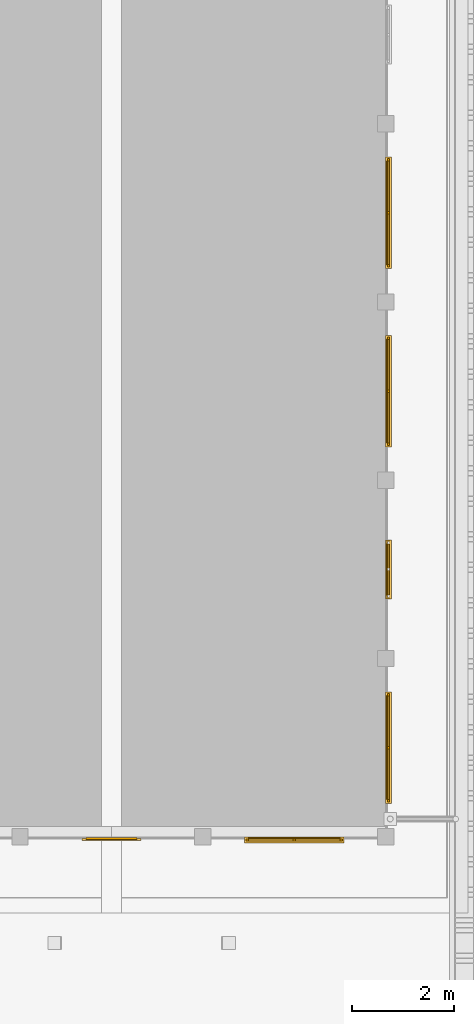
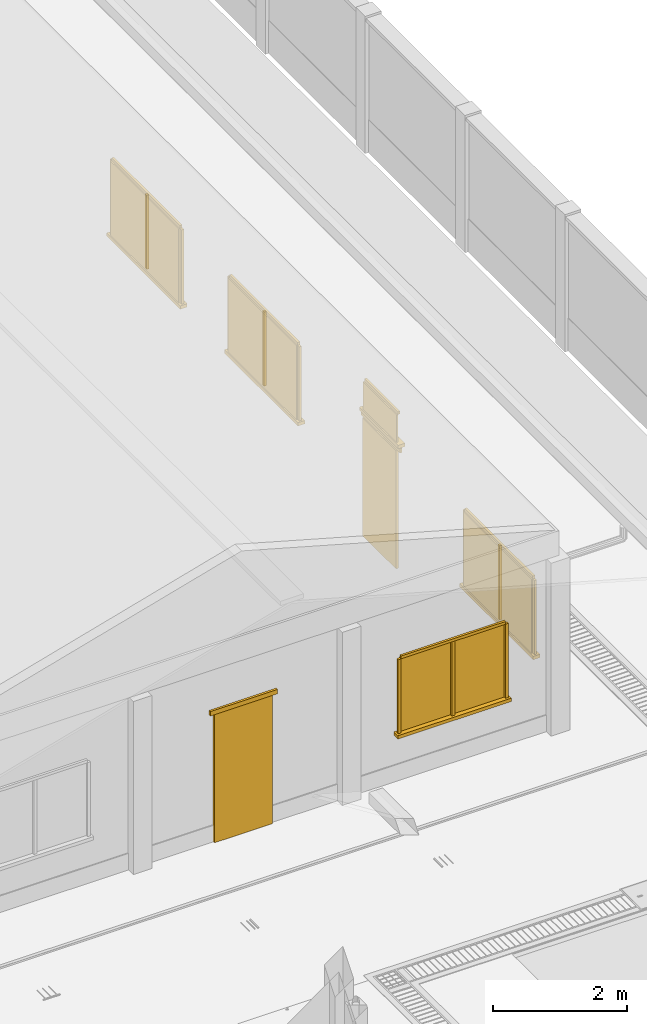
# One storey, part 64 of 151: 27 windows, 4 doors.
"""IFC2X3 building model written with IfcOpenShell, lengths in metres."""

from ifc_helpers import new_model, si_unit, origin, origin_with_axes, place, context, subcontext, project, spatial, faceted_brep, element, save


model = new_model("IFC2X3")

# Units and contexts
model_context = context("Model", 3, precision=1e-05, world=origin_with_axes())
body_context = subcontext(model_context, "Body", "Model", "MODEL_VIEW")
ifc_project = project(units=[si_unit("LENGTHUNIT", "METRE"), si_unit("AREAUNIT", "SQUARE_METRE"), si_unit("VOLUMEUNIT", "CUBIC_METRE"), si_unit("PLANEANGLEUNIT", "RADIAN")], contexts=[model_context])

# Site, building, storey
site_placement = place(None, origin_with_axes())
site = spatial("IfcSite", under=ifc_project, at=site_placement, Name="Predio Los Mangos - Morales, San Martín", CompositionType="ELEMENT")
building_placement = place(site_placement, origin())
building = spatial("IfcBuilding", under=site, at=building_placement, Name="Hogar de Refugio Temporal", CompositionType="ELEMENT")
storey_placement = place(building_placement, origin())
storey = spatial("IfcBuildingStorey", under=building, at=storey_placement, Name="NIVEL 1 (NPT +0.00)", CompositionType="ELEMENT", Elevation=0.0)

# Doors
door_1_placement = place(storey_placement, origin())
element("IfcDoor", 1, at=door_1_placement, inside=storey, Name="E-07_pp", ObjectType="Puerta", context=body_context, shape_type="Brep", body=[
    faceted_brep([(60.6, 92.65, 0.15), (60.6, 92.69, 0.15), (61.6, 92.69, 0.15), (61.6, 92.65, 0.15), (60.6, 92.65, 2.5), (61.6, 92.65, 2.5), (61.6, 92.69, 2.5), (60.6, 92.69, 2.5)], [[[0, 1, 2, 3]], [[4, 5, 6, 7]], [[0, 3, 5, 4]], [[3, 2, 6, 5]], [[2, 1, 7, 6]], [[1, 0, 4, 7]]]),
])
door_2_placement = place(storey_placement, origin())
element("IfcDoor", 2, at=door_2_placement, inside=storey, Name="E-07_pp_marco", ObjectType="Puerta", context=body_context, shape_type="Brep", body=[
    faceted_brep([(60.52, 92.63, 2.5), (60.52, 92.67, 2.5), (61.68, 92.67, 2.5), (61.68, 92.63, 2.5), (60.52, 92.63, 2.58), (61.68, 92.63, 2.58), (61.68, 92.67, 2.58), (60.52, 92.67, 2.58)], [[[0, 1, 2, 3]], [[4, 5, 6, 7]], [[0, 3, 5, 4]], [[3, 2, 6, 5]], [[2, 1, 7, 6]], [[1, 0, 4, 7]]]),
])

# Windows
window_1_placement = place(storey_placement, origin())
element("IfcWindow", 3, at=window_1_placement, inside=storey, Name="E-07_vg2_vid", ObjectType="Ventana", context=body_context, shape_type="Brep", body=[
    faceted_brep([(63.8, 92.66, 1.05), (63.8, 92.68, 1.05), (65.6, 92.68, 1.05), (65.6, 92.66, 1.05), (63.8, 92.66, 2.4), (65.6, 92.66, 2.4), (65.6, 92.68, 2.4), (63.8, 92.68, 2.4)], [[[0, 1, 2, 3]], [[4, 5, 6, 7]], [[0, 3, 5, 4]], [[3, 2, 6, 5]], [[2, 1, 7, 6]], [[1, 0, 4, 7]]]),
])
window_2_placement = place(storey_placement, origin())
element("IfcWindow", 4, at=window_2_placement, inside=storey, Name="E-07_vg2_m", ObjectType="Ventana", context=body_context, shape_type="Brep", body=[
    faceted_brep([(63.75, 92.62, 1.05), (63.75, 92.66, 1.05), (63.8, 92.66, 1.05), (63.8, 92.62, 1.05), (63.75, 92.62, 2.4), (63.8, 92.62, 2.4), (63.8, 92.66, 2.4), (63.75, 92.66, 2.4)], [[[0, 1, 2, 3]], [[4, 5, 6, 7]], [[0, 3, 5, 4]], [[3, 2, 6, 5]], [[2, 1, 7, 6]], [[1, 0, 4, 7]]]),
])
window_3_placement = place(storey_placement, origin())
element("IfcWindow", 5, at=window_3_placement, inside=storey, Name="E-07_vg2_m", ObjectType="Ventana", context=body_context, shape_type="Brep", body=[
    faceted_brep([(65.6, 92.62, 1.05), (65.6, 92.66, 1.05), (65.65, 92.66, 1.05), (65.65, 92.62, 1.05), (65.6, 92.62, 2.4), (65.65, 92.62, 2.4), (65.65, 92.66, 2.4), (65.6, 92.66, 2.4)], [[[0, 1, 2, 3]], [[4, 5, 6, 7]], [[0, 3, 5, 4]], [[3, 2, 6, 5]], [[2, 1, 7, 6]], [[1, 0, 4, 7]]]),
])
window_4_placement = place(storey_placement, origin())
element("IfcWindow", 6, at=window_4_placement, inside=storey, Name="E-07_vg2_m", ObjectType="Ventana", context=body_context, shape_type="Brep", body=[
    faceted_brep([(63.8, 92.62, 2.4), (63.8, 92.66, 2.4), (65.6, 92.66, 2.4), (65.6, 92.62, 2.4), (63.8, 92.62, 2.45), (65.6, 92.62, 2.45), (65.6, 92.66, 2.45), (63.8, 92.66, 2.45)], [[[0, 1, 2, 3]], [[4, 5, 6, 7]], [[0, 3, 5, 4]], [[3, 2, 6, 5]], [[2, 1, 7, 6]], [[1, 0, 4, 7]]]),
])
window_5_placement = place(storey_placement, origin())
element("IfcWindow", 7, at=window_5_placement, inside=storey, Name="E-07_vg2_m", ObjectType="Ventana", context=body_context, shape_type="Brep", body=[
    faceted_brep([(64.675, 92.62, 1.05), (64.675, 92.66, 1.05), (64.725, 92.66, 1.05), (64.725, 92.62, 1.05), (64.675, 92.62, 2.4), (64.725, 92.62, 2.4), (64.725, 92.66, 2.4), (64.675, 92.66, 2.4)], [[[0, 1, 2, 3]], [[4, 5, 6, 7]], [[0, 3, 5, 4]], [[3, 2, 6, 5]], [[2, 1, 7, 6]], [[1, 0, 4, 7]]]),
])
window_6_placement = place(storey_placement, origin())
element("IfcWindow", 8, at=window_6_placement, inside=storey, Name="E-07_vg2_alf", ObjectType="Ventana", context=body_context, shape_type="Brep", body=[
    faceted_brep([(63.72, 92.7, 0.99), (63.72, 92.58, 0.99), (65.68, 92.58, 0.99), (65.68, 92.7, 0.99), (63.72, 92.7, 1.05), (65.68, 92.7, 1.05), (65.68, 92.58, 1.05), (63.72, 92.58, 1.05)], [[[0, 1, 2, 3]], [[4, 5, 6, 7]], [[0, 3, 5, 4]], [[3, 2, 6, 5]], [[2, 1, 7, 6]], [[1, 0, 4, 7]]]),
])
window_7_placement = place(storey_placement, origin())
element("IfcWindow", 9, at=window_7_placement, inside=storey, Name="E-07_v0_vid", ObjectType="Ventana", context=body_context, shape_type="Brep", body=[
    faceted_brep([(66.52, 93.4371, 1.05), (66.52, 95.4729, 1.05), (66.54, 95.4729, 1.05), (66.54, 93.4371, 1.05), (66.52, 93.4371, 2.4), (66.54, 93.4371, 2.4), (66.54, 95.4729, 2.4), (66.52, 95.4729, 2.4)], [[[0, 1, 2, 3]], [[4, 5, 6, 7]], [[0, 3, 5, 4]], [[3, 2, 6, 5]], [[2, 1, 7, 6]], [[1, 0, 4, 7]]]),
])
window_8_placement = place(storey_placement, origin())
element("IfcWindow", 10, at=window_8_placement, inside=storey, Name="E-07_v0_m", ObjectType="Ventana", context=body_context, shape_type="Brep", body=[
    faceted_brep([(66.54, 93.3871, 1.05), (66.54, 93.4371, 1.05), (66.58, 93.4371, 1.05), (66.58, 93.3871, 1.05), (66.54, 93.3871, 2.4), (66.58, 93.3871, 2.4), (66.58, 93.4371, 2.4), (66.54, 93.4371, 2.4)], [[[0, 1, 2, 3]], [[4, 5, 6, 7]], [[0, 3, 5, 4]], [[3, 2, 6, 5]], [[2, 1, 7, 6]], [[1, 0, 4, 7]]]),
])
window_9_placement = place(storey_placement, origin())
element("IfcWindow", 11, at=window_9_placement, inside=storey, Name="E-07_v0_m", ObjectType="Ventana", context=body_context, shape_type="Brep", body=[
    faceted_brep([(66.54, 95.4729, 1.05), (66.54, 95.5229, 1.05), (66.58, 95.5229, 1.05), (66.58, 95.4729, 1.05), (66.54, 95.4729, 2.4), (66.58, 95.4729, 2.4), (66.58, 95.5229, 2.4), (66.54, 95.5229, 2.4)], [[[0, 1, 2, 3]], [[4, 5, 6, 7]], [[0, 3, 5, 4]], [[3, 2, 6, 5]], [[2, 1, 7, 6]], [[1, 0, 4, 7]]]),
])
window_10_placement = place(storey_placement, origin())
element("IfcWindow", 12, at=window_10_placement, inside=storey, Name="E-07_v0_m", ObjectType="Ventana", context=body_context, shape_type="Brep", body=[
    faceted_brep([(66.54, 93.4371, 2.4), (66.54, 95.4729, 2.4), (66.58, 95.4729, 2.4), (66.58, 93.4371, 2.4), (66.54, 93.4371, 2.45), (66.58, 93.4371, 2.45), (66.58, 95.4729, 2.45), (66.54, 95.4729, 2.45)], [[[0, 1, 2, 3]], [[4, 5, 6, 7]], [[0, 3, 5, 4]], [[3, 2, 6, 5]], [[2, 1, 7, 6]], [[1, 0, 4, 7]]]),
])
window_11_placement = place(storey_placement, origin())
element("IfcWindow", 13, at=window_11_placement, inside=storey, Name="E-07_v0_m", ObjectType="Ventana", context=body_context, shape_type="Brep", body=[
    faceted_brep([(66.54, 94.43, 1.05), (66.54, 94.48, 1.05), (66.58, 94.48, 1.05), (66.58, 94.43, 1.05), (66.54, 94.43, 2.4), (66.58, 94.43, 2.4), (66.58, 94.48, 2.4), (66.54, 94.48, 2.4)], [[[0, 1, 2, 3]], [[4, 5, 6, 7]], [[0, 3, 5, 4]], [[3, 2, 6, 5]], [[2, 1, 7, 6]], [[1, 0, 4, 7]]]),
])
window_12_placement = place(storey_placement, origin())
element("IfcWindow", 14, at=window_12_placement, inside=storey, Name="E-07_v0_alf", ObjectType="Ventana", context=body_context, shape_type="Brep", body=[
    faceted_brep([(66.5, 93.3571, 0.99), (66.5, 95.5529, 0.99), (66.62, 95.5529, 0.99), (66.62, 93.3571, 0.99), (66.5, 93.3571, 1.05), (66.62, 93.3571, 1.05), (66.62, 95.5529, 1.05), (66.5, 95.5529, 1.05)], [[[0, 1, 2, 3]], [[4, 5, 6, 7]], [[0, 3, 5, 4]], [[3, 2, 6, 5]], [[2, 1, 7, 6]], [[1, 0, 4, 7]]]),
])

# Doors
door_3_placement = place(storey_placement, origin())
element("IfcDoor", 15, at=door_3_placement, inside=storey, Name="E-07_p1", ObjectType="Puerta", context=body_context, shape_type="Brep", body=[
    faceted_brep([(66.51, 97.465, 0.15), (66.51, 98.465, 0.15), (66.55, 98.465, 0.15), (66.55, 97.465, 0.15), (66.51, 97.465, 2.3), (66.55, 97.465, 2.3), (66.55, 98.465, 2.3), (66.51, 98.465, 2.3)], [[[0, 1, 2, 3]], [[4, 5, 6, 7]], [[0, 3, 5, 4]], [[3, 2, 6, 5]], [[2, 1, 7, 6]], [[1, 0, 4, 7]]]),
])
door_4_placement = place(storey_placement, origin())
element("IfcDoor", 16, at=door_4_placement, inside=storey, Name="E-07_p1_marco", ObjectType="Puerta", context=body_context, shape_type="Brep", body=[
    faceted_brep([(66.53, 97.385, 2.3), (66.53, 98.545, 2.3), (66.57, 98.545, 2.3), (66.57, 97.385, 2.3), (66.53, 97.385, 2.38), (66.57, 97.385, 2.38), (66.57, 98.545, 2.38), (66.53, 98.545, 2.38)], [[[0, 1, 2, 3]], [[4, 5, 6, 7]], [[0, 3, 5, 4]], [[3, 2, 6, 5]], [[2, 1, 7, 6]], [[1, 0, 4, 7]]]),
])

# Windows
window_13_placement = place(storey_placement, origin())
element("IfcWindow", 17, at=window_13_placement, inside=storey, Name="E-07_vt1_vid", ObjectType="Ventana", context=body_context, shape_type="Brep", body=[
    faceted_brep([(66.52, 97.465, 2.45), (66.52, 98.465, 2.45), (66.54, 98.465, 2.45), (66.54, 97.465, 2.45), (66.52, 97.465, 2.95), (66.54, 97.465, 2.95), (66.54, 98.465, 2.95), (66.52, 98.465, 2.95)], [[[0, 1, 2, 3]], [[4, 5, 6, 7]], [[0, 3, 5, 4]], [[3, 2, 6, 5]], [[2, 1, 7, 6]], [[1, 0, 4, 7]]]),
])
window_14_placement = place(storey_placement, origin())
element("IfcWindow", 18, at=window_14_placement, inside=storey, Name="E-07_vt1_m", ObjectType="Ventana", context=body_context, shape_type="Brep", body=[
    faceted_brep([(66.54, 97.465, 2.95), (66.54, 98.465, 2.95), (66.58, 98.465, 2.95), (66.58, 97.465, 2.95), (66.54, 97.465, 3.0), (66.58, 97.465, 3.0), (66.58, 98.465, 3.0), (66.54, 98.465, 3.0)], [[[0, 1, 2, 3]], [[4, 5, 6, 7]], [[0, 3, 5, 4]], [[3, 2, 6, 5]], [[2, 1, 7, 6]], [[1, 0, 4, 7]]]),
])
window_15_placement = place(storey_placement, origin())
element("IfcWindow", 19, at=window_15_placement, inside=storey, Name="E-07_vt1_alf", ObjectType="Ventana", context=body_context, shape_type="Brep", body=[
    faceted_brep([(66.5, 97.385, 2.39), (66.5, 98.545, 2.39), (66.62, 98.545, 2.39), (66.62, 97.385, 2.39), (66.5, 97.385, 2.45), (66.62, 97.385, 2.45), (66.62, 98.545, 2.45), (66.5, 98.545, 2.45)], [[[0, 1, 2, 3]], [[4, 5, 6, 7]], [[0, 3, 5, 4]], [[3, 2, 6, 5]], [[2, 1, 7, 6]], [[1, 0, 4, 7]]]),
])
window_16_placement = place(storey_placement, origin())
element("IfcWindow", 20, at=window_16_placement, inside=storey, Name="E-07_v2_vid", ObjectType="Ventana", context=body_context, shape_type="Brep", body=[
    faceted_brep([(66.52, 100.4571, 1.05), (66.52, 102.4929, 1.05), (66.54, 102.4929, 1.05), (66.54, 100.4571, 1.05), (66.52, 100.4571, 2.4), (66.54, 100.4571, 2.4), (66.54, 102.4929, 2.4), (66.52, 102.4929, 2.4)], [[[0, 1, 2, 3]], [[4, 5, 6, 7]], [[0, 3, 5, 4]], [[3, 2, 6, 5]], [[2, 1, 7, 6]], [[1, 0, 4, 7]]]),
])
window_17_placement = place(storey_placement, origin())
element("IfcWindow", 21, at=window_17_placement, inside=storey, Name="E-07_v2_m", ObjectType="Ventana", context=body_context, shape_type="Brep", body=[
    faceted_brep([(66.54, 100.4071, 1.05), (66.54, 100.4571, 1.05), (66.58, 100.4571, 1.05), (66.58, 100.4071, 1.05), (66.54, 100.4071, 2.4), (66.58, 100.4071, 2.4), (66.58, 100.4571, 2.4), (66.54, 100.4571, 2.4)], [[[0, 1, 2, 3]], [[4, 5, 6, 7]], [[0, 3, 5, 4]], [[3, 2, 6, 5]], [[2, 1, 7, 6]], [[1, 0, 4, 7]]]),
])
window_18_placement = place(storey_placement, origin())
element("IfcWindow", 22, at=window_18_placement, inside=storey, Name="E-07_v2_m", ObjectType="Ventana", context=body_context, shape_type="Brep", body=[
    faceted_brep([(66.54, 102.4929, 1.05), (66.54, 102.5429, 1.05), (66.58, 102.5429, 1.05), (66.58, 102.4929, 1.05), (66.54, 102.4929, 2.4), (66.58, 102.4929, 2.4), (66.58, 102.5429, 2.4), (66.54, 102.5429, 2.4)], [[[0, 1, 2, 3]], [[4, 5, 6, 7]], [[0, 3, 5, 4]], [[3, 2, 6, 5]], [[2, 1, 7, 6]], [[1, 0, 4, 7]]]),
])
window_19_placement = place(storey_placement, origin())
element("IfcWindow", 23, at=window_19_placement, inside=storey, Name="E-07_v2_m", ObjectType="Ventana", context=body_context, shape_type="Brep", body=[
    faceted_brep([(66.54, 100.4571, 2.4), (66.54, 102.4929, 2.4), (66.58, 102.4929, 2.4), (66.58, 100.4571, 2.4), (66.54, 100.4571, 2.45), (66.58, 100.4571, 2.45), (66.58, 102.4929, 2.45), (66.54, 102.4929, 2.45)], [[[0, 1, 2, 3]], [[4, 5, 6, 7]], [[0, 3, 5, 4]], [[3, 2, 6, 5]], [[2, 1, 7, 6]], [[1, 0, 4, 7]]]),
])
window_20_placement = place(storey_placement, origin())
element("IfcWindow", 24, at=window_20_placement, inside=storey, Name="E-07_v2_m", ObjectType="Ventana", context=body_context, shape_type="Brep", body=[
    faceted_brep([(66.54, 101.45, 1.05), (66.54, 101.5, 1.05), (66.58, 101.5, 1.05), (66.58, 101.45, 1.05), (66.54, 101.45, 2.4), (66.58, 101.45, 2.4), (66.58, 101.5, 2.4), (66.54, 101.5, 2.4)], [[[0, 1, 2, 3]], [[4, 5, 6, 7]], [[0, 3, 5, 4]], [[3, 2, 6, 5]], [[2, 1, 7, 6]], [[1, 0, 4, 7]]]),
])
window_21_placement = place(storey_placement, origin())
element("IfcWindow", 25, at=window_21_placement, inside=storey, Name="E-07_v2_alf", ObjectType="Ventana", context=body_context, shape_type="Brep", body=[
    faceted_brep([(66.5, 100.3771, 0.99), (66.5, 102.5729, 0.99), (66.62, 102.5729, 0.99), (66.62, 100.3771, 0.99), (66.5, 100.3771, 1.05), (66.62, 100.3771, 1.05), (66.62, 102.5729, 1.05), (66.5, 102.5729, 1.05)], [[[0, 1, 2, 3]], [[4, 5, 6, 7]], [[0, 3, 5, 4]], [[3, 2, 6, 5]], [[2, 1, 7, 6]], [[1, 0, 4, 7]]]),
])
window_22_placement = place(storey_placement, origin())
element("IfcWindow", 26, at=window_22_placement, inside=storey, Name="E-07_v3_vid", ObjectType="Ventana", context=body_context, shape_type="Brep", body=[
    faceted_brep([(66.52, 103.9671, 1.05), (66.52, 106.0029, 1.05), (66.54, 106.0029, 1.05), (66.54, 103.9671, 1.05), (66.52, 103.9671, 2.4), (66.54, 103.9671, 2.4), (66.54, 106.0029, 2.4), (66.52, 106.0029, 2.4)], [[[0, 1, 2, 3]], [[4, 5, 6, 7]], [[0, 3, 5, 4]], [[3, 2, 6, 5]], [[2, 1, 7, 6]], [[1, 0, 4, 7]]]),
])
window_23_placement = place(storey_placement, origin())
element("IfcWindow", 27, at=window_23_placement, inside=storey, Name="E-07_v3_m", ObjectType="Ventana", context=body_context, shape_type="Brep", body=[
    faceted_brep([(66.54, 103.9171, 1.05), (66.54, 103.9671, 1.05), (66.58, 103.9671, 1.05), (66.58, 103.9171, 1.05), (66.54, 103.9171, 2.4), (66.58, 103.9171, 2.4), (66.58, 103.9671, 2.4), (66.54, 103.9671, 2.4)], [[[0, 1, 2, 3]], [[4, 5, 6, 7]], [[0, 3, 5, 4]], [[3, 2, 6, 5]], [[2, 1, 7, 6]], [[1, 0, 4, 7]]]),
])
window_24_placement = place(storey_placement, origin())
element("IfcWindow", 28, at=window_24_placement, inside=storey, Name="E-07_v3_m", ObjectType="Ventana", context=body_context, shape_type="Brep", body=[
    faceted_brep([(66.54, 106.0029, 1.05), (66.54, 106.0529, 1.05), (66.58, 106.0529, 1.05), (66.58, 106.0029, 1.05), (66.54, 106.0029, 2.4), (66.58, 106.0029, 2.4), (66.58, 106.0529, 2.4), (66.54, 106.0529, 2.4)], [[[0, 1, 2, 3]], [[4, 5, 6, 7]], [[0, 3, 5, 4]], [[3, 2, 6, 5]], [[2, 1, 7, 6]], [[1, 0, 4, 7]]]),
])
window_25_placement = place(storey_placement, origin())
element("IfcWindow", 29, at=window_25_placement, inside=storey, Name="E-07_v3_m", ObjectType="Ventana", context=body_context, shape_type="Brep", body=[
    faceted_brep([(66.54, 103.9671, 2.4), (66.54, 106.0029, 2.4), (66.58, 106.0029, 2.4), (66.58, 103.9671, 2.4), (66.54, 103.9671, 2.45), (66.58, 103.9671, 2.45), (66.58, 106.0029, 2.45), (66.54, 106.0029, 2.45)], [[[0, 1, 2, 3]], [[4, 5, 6, 7]], [[0, 3, 5, 4]], [[3, 2, 6, 5]], [[2, 1, 7, 6]], [[1, 0, 4, 7]]]),
])
window_26_placement = place(storey_placement, origin())
element("IfcWindow", 30, at=window_26_placement, inside=storey, Name="E-07_v3_m", ObjectType="Ventana", context=body_context, shape_type="Brep", body=[
    faceted_brep([(66.54, 104.96, 1.05), (66.54, 105.01, 1.05), (66.58, 105.01, 1.05), (66.58, 104.96, 1.05), (66.54, 104.96, 2.4), (66.58, 104.96, 2.4), (66.58, 105.01, 2.4), (66.54, 105.01, 2.4)], [[[0, 1, 2, 3]], [[4, 5, 6, 7]], [[0, 3, 5, 4]], [[3, 2, 6, 5]], [[2, 1, 7, 6]], [[1, 0, 4, 7]]]),
])
window_27_placement = place(storey_placement, origin())
element("IfcWindow", 31, at=window_27_placement, inside=storey, Name="E-07_v3_alf", ObjectType="Ventana", context=body_context, shape_type="Brep", body=[
    faceted_brep([(66.5, 103.8871, 0.99), (66.5, 106.0829, 0.99), (66.62, 106.0829, 0.99), (66.62, 103.8871, 0.99), (66.5, 103.8871, 1.05), (66.62, 103.8871, 1.05), (66.62, 106.0829, 1.05), (66.5, 106.0829, 1.05)], [[[0, 1, 2, 3]], [[4, 5, 6, 7]], [[0, 3, 5, 4]], [[3, 2, 6, 5]], [[2, 1, 7, 6]], [[1, 0, 4, 7]]]),
])

save(model, "model.ifc")
